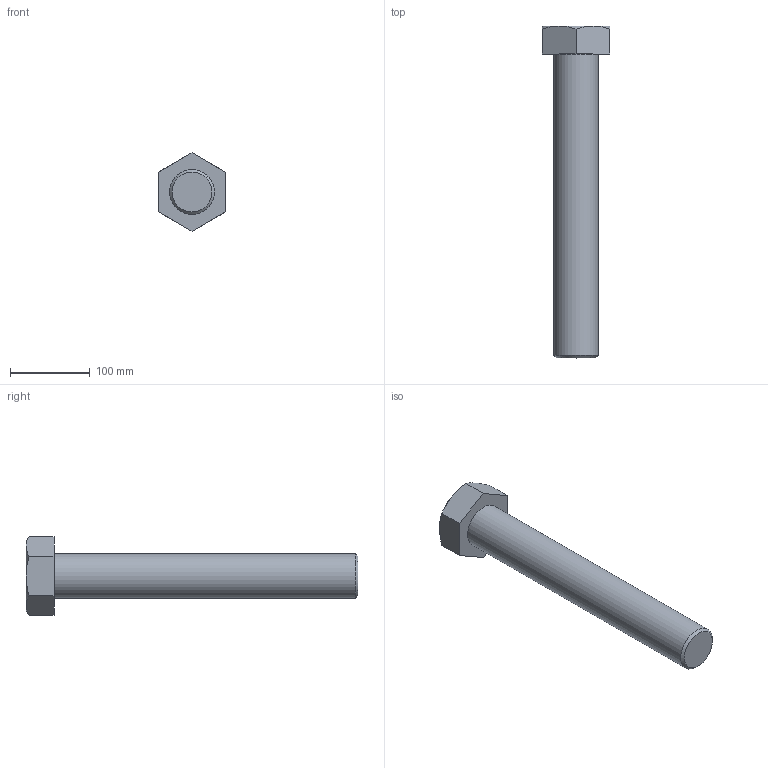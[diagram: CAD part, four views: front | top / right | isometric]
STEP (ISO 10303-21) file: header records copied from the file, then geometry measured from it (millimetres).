
FILE_DESCRIPTION(/* description */ (''),/* implementation_level */ '2;1');
FILE_NAME(/* name */ 'C:\Users\unitec\Documents\Inventor\各種小物\JIS\JIS B 1180 六角ボルト 等級C\hbc56\M56x380.stp',/* time_stamp */ '2015-02-13T15:00:19+09:00',/* author */ ('unitec'),/* organization */ (''),/* preprocessor_version */ 'ST-DEVELOPER v15.2',/* originating_system */ 'Autodesk Inventor 2014',/* authorisation */ '');
FILE_SCHEMA (('AUTOMOTIVE_DESIGN { 1 0 10303 214 3 1 1 }'));
Length unit declared in the file: millimetre
Products named in the file (1): M56x380
Bounding box: 85 x 415 x 98.15 mm (x, y, z)
Volume: 1153474 mm3; surface area: 89050.9 mm2
Topology: 1 solids, 1 shells, 17 faces, 35 edges, 21 vertices
Faces by surface type: plane 9, cone 7, cylinder 1
Full cylindrical faces by diameter (mm): 56 x1
Entity records: 441 total; most frequent: CARTESIAN_POINT 96, ORIENTED_EDGE 66, DIRECTION 66, EDGE_CURVE 33, AXIS2_PLACEMENT_3D 27, VERTEX_POINT 21, EDGE_LOOP 20, ADVANCED_FACE 17
